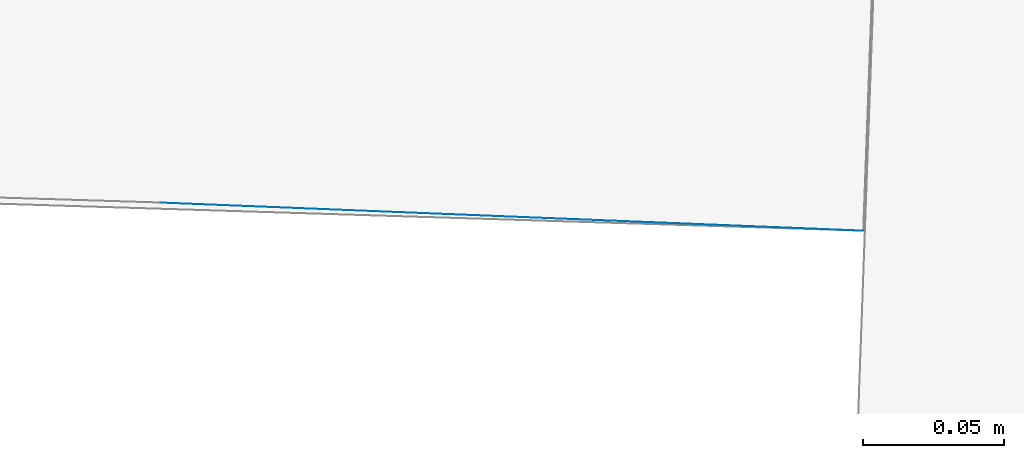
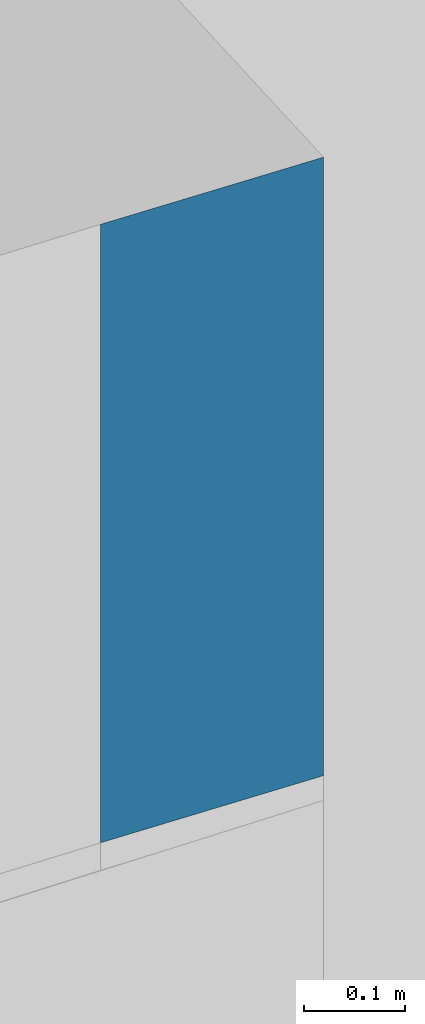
# Not in any storey, part 46 of 57: 2 walls.
"""IFC2X3 building model written with IfcOpenShell, lengths in metres."""

import ifcopenshell
import ifcopenshell.guid

model = None  # the IFC model being written
_history = None  # IfcOwnerHistory: only IFC2X3 demands one
_inside = {}  # id of a spatial element -> (the spatial element, [elements in it])
_under = {}  # id of a project, library or spatial element -> (it, [spatial elements below it])
_declared = {}  # id of a project -> (the project, [libraries it declares])
_typed = {}  # id of a type object -> (the type object, [elements of that type])
_made_of = {}  # id of a material, layer set ... -> (it, [elements and type objects made of it])


def new_model(schema):
    """Start an empty IFC model of exactly this schema.

    Asked for "IFC4X3", IfcOpenShell would pick the latest addendum, in which some entities
    have other attributes; the version numbers below select the first issue.
    IFC2X3 requires an IfcOwnerHistory on every rooted entity: one is made here for all.
    """
    global model, _history
    if schema == "IFC4X3":
        model = ifcopenshell.file(schema_version=(4, 3, 0, 0))
    else:
        model = ifcopenshell.file(schema=schema)
    _inside.clear()
    _under.clear()
    _declared.clear()
    _typed.clear()
    _made_of.clear()
    _history = None
    if model.schema == "IFC2X3":
        org = make("IfcOrganization", Name="unknown")
        user = make(
            "IfcPersonAndOrganization",
            ThePerson=make("IfcPerson", FamilyName="unknown"),
            TheOrganization=org,
        )
        app = make(
            "IfcApplication",
            ApplicationDeveloper=org,
            Version="unknown",
            ApplicationFullName="unknown",
            ApplicationIdentifier="unknown",
        )
        _history = make(
            "IfcOwnerHistory",
            OwningUser=user,
            OwningApplication=app,
            ChangeAction="ADDED",
            CreationDate=0,
        )
    return model


def make(cls, **values):
    """One entity of the class cls with the attributes given. An attribute that is None is left unset."""
    return model.create_entity(
        cls, **{name: value for name, value in values.items() if value is not None}
    )


def entity(cls, *values):
    """Any entity or typed value of the class cls, its attributes in the order of the schema. None: left unset."""
    e = model.create_entity(cls)
    for i, value in enumerate(values):
        if value is not None:
            e[i] = value
    return e


def rooted(cls, **values):
    """An entity with a GlobalId (a new one), such as an element, a storey or a relation."""
    return make(cls, GlobalId=ifcopenshell.guid.new(), OwnerHistory=_history, **values)


def si_unit(unit_type, name, prefix=None):
    """IfcSIUnit, for example si_unit("LENGTHUNIT", "METRE", prefix="MILLI")."""
    return make("IfcSIUnit", UnitType=unit_type, Prefix=prefix, Name=name)


def converted_unit(unit_type, name, factor, base, dimensions=None, offset=None):
    """IfcConversionBasedUnit, such as the inch: factor (a typed value) times the base unit."""
    return make(
        "IfcConversionBasedUnit"
        if offset is None
        else "IfcConversionBasedUnitWithOffset",
        ConversionOffset=offset,
        Dimensions=None
        if dimensions is None
        else entity("IfcDimensionalExponents", *dimensions),
        UnitType=unit_type,
        Name=name,
        ConversionFactor=make(
            "IfcMeasureWithUnit", ValueComponent=factor, UnitComponent=base
        ),
    )


def assignment(units):
    """IfcUnitAssignment: the units of a project."""
    return None if units is None else make("IfcUnitAssignment", Units=units)


def point(xyz):
    """IfcCartesianPoint."""
    return None if xyz is None else make("IfcCartesianPoint", Coordinates=xyz)


def direction(xyz):
    """IfcDirection."""
    return None if xyz is None else make("IfcDirection", DirectionRatios=xyz)


def frame(location, z_axis=None, x_axis=None):
    """IfcAxis2Placement3D, a coordinate frame: its origin and axes. An axis left out is left unset."""
    return make(
        "IfcAxis2Placement3D",
        Location=point(location),
        Axis=direction(z_axis),
        RefDirection=direction(x_axis),
    )


def origin():
    """The frame at (0, 0, 0) with its axes left unset."""
    return frame((0.0, 0.0, 0.0))


def place(relative_to, where):
    """IfcLocalPlacement: puts the frame where relative to a parent placement (None: the world)."""
    return make(
        "IfcLocalPlacement", PlacementRelTo=relative_to, RelativePlacement=where
    )


def context(
    kind, dimensions, precision=None, world=None, true_north=None, identifier=None
):
    """IfcGeometricRepresentationContext, for example the 3D "Model" context."""
    return make(
        "IfcGeometricRepresentationContext",
        ContextIdentifier=identifier,
        ContextType=kind,
        CoordinateSpaceDimension=dimensions,
        Precision=precision,
        WorldCoordinateSystem=world,
        TrueNorth=true_north,
    )


def subcontext(parent, identifier, kind, view, scale=None):
    """IfcGeometricRepresentationSubContext, for example "Body" below "Model"."""
    return make(
        "IfcGeometricRepresentationSubContext",
        ContextIdentifier=identifier,
        ContextType=kind,
        ParentContext=parent,
        TargetScale=scale,
        TargetView=view,
    )


def project(units=None, contexts=None):
    """IfcProject with its units and contexts."""
    return rooted(
        "IfcProject",
        Name="project",
        RepresentationContexts=contexts,
        UnitsInContext=assignment(units),
    )


def spatial(cls, under=None, at=None, **own):
    """A site, building, storey or space (cls), placed at a placement, below another one or the project."""
    s = rooted(cls, ObjectPlacement=at, **own)
    if under is not None:
        _under.setdefault(under.id(), (under, []))[1].append(s)
    return s


def faces_of(points, faces, orient=None, outer=None):
    """IfcFace entities. A face is a list of loops; a loop is a list of indices into points, from 0.

    orient and outer hold one flag for each loop. By default every Orientation is true, the
    first loop of a face is its IfcFaceOuterBound and the others are IfcFaceBound.
    """
    made = []
    for i, loops in enumerate(faces):
        bounds = []
        for j, loop in enumerate(loops):
            is_outer = j == 0 if outer is None else outer[i][j]
            bounds.append(
                make(
                    "IfcFaceOuterBound" if is_outer else "IfcFaceBound",
                    Bound=make("IfcPolyLoop", Polygon=[points[k] for k in loop]),
                    Orientation=True if orient is None else orient[i][j],
                )
            )
        made.append(make("IfcFace", Bounds=bounds))
    return made


def face_set(faces, orient=None, outer=None):
    """The faces of one IfcConnectedFaceSet. surface_model builds it on its shared points."""
    return ("IfcConnectedFaceSet", faces, orient, outer)


def surface_model(cls, points, shells):
    """IfcFaceBasedSurfaceModel or IfcShellBasedSurfaceModel (cls): surfaces that need not close."""
    shared = [point(p) for p in points]
    made = [make(c, CfsFaces=faces_of(shared, fs, o, b)) for c, fs, o, b in shells]
    if cls == "IfcFaceBasedSurfaceModel":
        return make(cls, FbsmFaces=made)
    return make(cls, SbsmBoundary=made)


def shape(context_of_items, identifier, shape_type, items):
    """IfcShapeRepresentation: the items that make up one representation, for example the "Body"."""
    return make(
        "IfcShapeRepresentation",
        ContextOfItems=context_of_items,
        RepresentationIdentifier=identifier,
        RepresentationType=shape_type,
        Items=items,
    )


def made_of(thing, what):
    """Note that an element or type object is made of a material, layer set ...; save() writes the relation."""
    if what is not None:
        _made_of.setdefault(what.id(), (what, []))[1].append(thing)
    return thing


def element(
    cls,
    number,
    at=None,
    inside=None,
    cuts=None,
    type_object=None,
    material=None,
    context=None,
    identifier="Body",
    shape_type=None,
    held_by="IfcProductDefinitionShape",
    body=None,
    shapes=None,
    **own,
):
    """One element of the class cls, such as IfcWall. Its Tag is "e" and its number.

    at: its placement. inside: the storey or other place that contains it. cuts: it is an
    opening in that element (IfcRelVoidsElement). A single representation is given by context,
    identifier, shape_type and body (its items); several are given by shapes. held_by: the class
    of the entity that holds the representations. save() writes the other relations.
    """
    e = rooted(cls, Tag="e%d" % number, ObjectPlacement=at, **own)
    if body is not None:
        shapes = [shape(context, identifier, shape_type, body)]
    if shapes is not None:
        e.Representation = make(held_by, Representations=shapes)
    if inside is not None:
        _inside.setdefault(inside.id(), (inside, []))[1].append(e)
    if cuts is not None:
        rooted(
            "IfcRelVoidsElement", RelatingBuildingElement=cuts, RelatedOpeningElement=e
        )
    if type_object is not None:
        _typed.setdefault(type_object.id(), (type_object, []))[1].append(e)
    return made_of(e, material)


def aggregate(whole, parts):
    """IfcRelAggregates: a whole, such as a stair, and the parts it consists of."""
    return rooted("IfcRelAggregates", RelatingObject=whole, RelatedObjects=parts)


def save(model, path):
    """Write the relations noted so far, then the file.

    IfcRelAggregates (storeys below a building ...), IfcRelContainedInSpatialStructure (elements
    in a storey), IfcRelDefinesByType, IfcRelAssociatesMaterial and IfcRelDeclares: one each for
    every whole, place, type object, material and project.
    """
    for whole, parts in _under.values():
        aggregate(whole, parts)
    for where, things in _inside.values():
        rooted(
            "IfcRelContainedInSpatialStructure",
            RelatedElements=things,
            RelatingStructure=where,
        )
    for kind, things in _typed.values():
        rooted("IfcRelDefinesByType", RelatedObjects=things, RelatingType=kind)
    for what, things in _made_of.values():
        rooted("IfcRelAssociatesMaterial", RelatedObjects=things, RelatingMaterial=what)
    for by, libraries in _declared.values():
        rooted("IfcRelDeclares", RelatingContext=by, RelatedDefinitions=libraries)
    model.write(path)


model = new_model("IFC2X3")

# Units and contexts
model_context = context("Model", 3, precision=1e-05, world=origin())
body_context = subcontext(model_context, "Body", "Model", "MODEL_VIEW")
ifc_project = project(units=[converted_unit("PLANEANGLEUNIT", "DEGREE", entity("IfcRatioMeasure", 0.0174532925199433), si_unit("PLANEANGLEUNIT", "RADIAN"), dimensions=[0, 0, 0, 0, 0, 0, 0]), si_unit("AREAUNIT", "SQUARE_METRE"), si_unit("LENGTHUNIT", "METRE")], contexts=[model_context])

# Site, building
site_placement = place(None, origin())
site = spatial("IfcSite", under=ifc_project, at=site_placement, Name="_site", CompositionType="ELEMENT")
building_placement = place(site_placement, origin())
building = spatial("IfcBuilding", under=site, at=building_placement, Name="_building", CompositionType="ELEMENT")

# Walls
for number, where, name in (
    (1, (0.0, 0.0, 0.0), "Wall"),
    (2, (0.0, 0.0, 0.0), "Wall"),
):
    element("IfcWall", number, at=place(building_placement, frame(where)), inside=building, Name=name, context=body_context, shape_type="SurfaceModel", body=[
        surface_model("IfcFaceBasedSurfaceModel", [(115.4, 100.76, 216.89), (115.15, 100.77, 216.89), (115.15, 100.77, 217.64), (115.4, 100.76, 217.64)], [face_set([[[0, 1, 2, 3]]])]),
    ])

save(model, "model.ifc")
